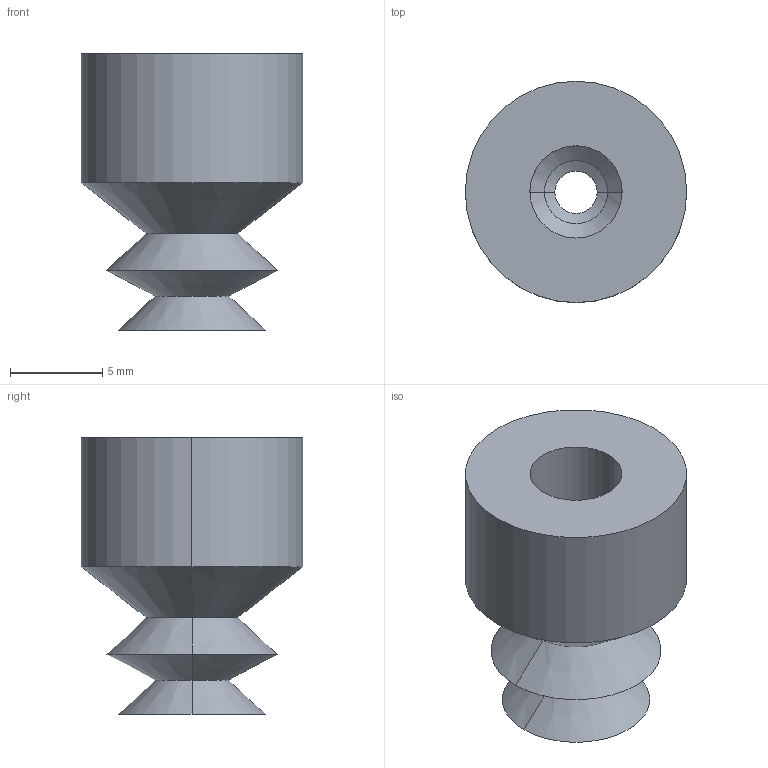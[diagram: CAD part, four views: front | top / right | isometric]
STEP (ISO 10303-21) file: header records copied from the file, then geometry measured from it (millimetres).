
FILE_DESCRIPTION (( 'STEP AP214' ), '1' );
FILE_NAME ('VSH2-S8.STEP', '2019-11-13T09:32:00', ( '微软用户' ), ( '微软中国' ), 'SwSTEP 2.0', 'SolidWorks 2016', '' );
FILE_SCHEMA (( 'AUTOMOTIVE_DESIGN' ));
Length unit declared in the file: millimetre
Products named in the file (1): VSH2-S8
Bounding box: 12 x 12 x 15 mm (x, y, z)
Volume: 636.6 mm3; surface area: 1129.5 mm2
Topology: 1 solids, 1 shells, 25 faces, 50 edges, 28 vertices
Faces by surface type: cone 16, cylinder 6, plane 3
Entity records: 682 total; most frequent: DIRECTION 130, CARTESIAN_POINT 104, ORIENTED_EDGE 100, AXIS2_PLACEMENT_3D 54, EDGE_CURVE 50, VERTEX_POINT 28, CIRCLE 28, EDGE_LOOP 28
